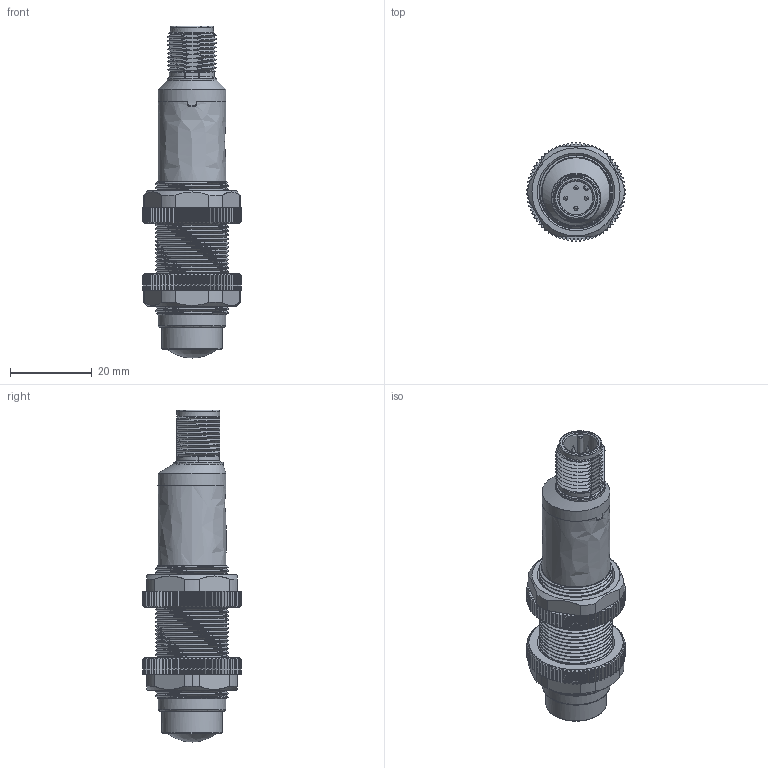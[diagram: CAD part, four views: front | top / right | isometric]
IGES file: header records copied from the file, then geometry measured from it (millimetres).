
Start section: JAMA-IS VERSION  1.0
Global section: file name: D:\CS\IDF\TESTPCB\DSD-1020.igs; native system: NX V12.0; preprocessor: SIEMENS PLM Software NX 12.0; date: 200709.143348; units: millimetre
Bounding box: 23.99 x 24 x 81.05 mm (x, y, z)
Surface area: 9635.2 mm2 (no closed solid volume)
Topology: 0 solids, 0 shells, 1337 faces, 8497 edges, 8464 vertices
Faces by surface type: bspline 1337
